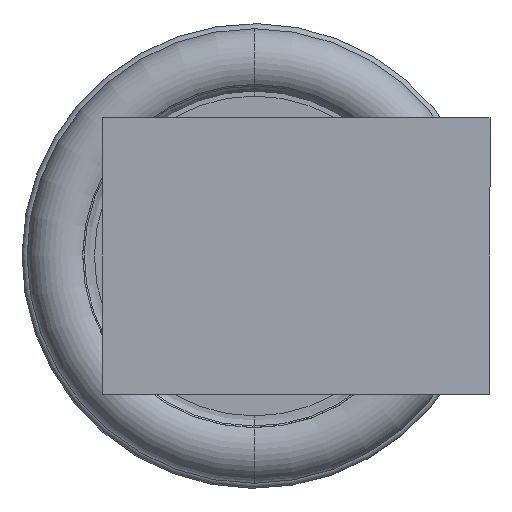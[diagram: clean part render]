
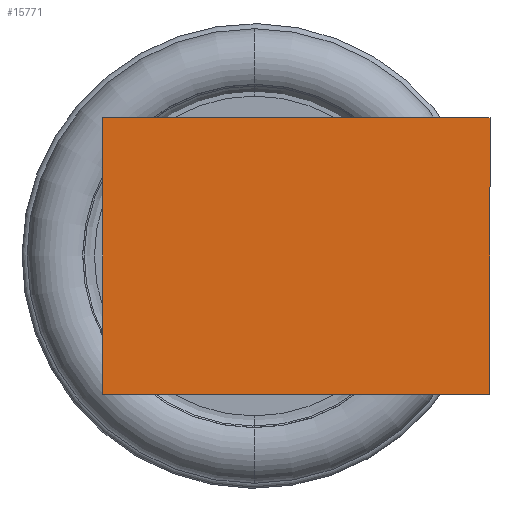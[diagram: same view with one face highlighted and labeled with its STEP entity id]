
A CAD part, left-side view. The second image highlights one B-rep face of the part: STEP entity #15771.
In plain terms, the highlighted planar face has unit normal (-1, 0, 0).
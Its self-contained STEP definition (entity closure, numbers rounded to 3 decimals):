
#1249 = ORIENTED_EDGE ( 'NONE', *, *, #2960, .T. ) ;
#2960 = EDGE_CURVE ( 'NONE', #8274, #21237, #16610, .T. ) ;
#3038 = VERTEX_POINT ( 'NONE', #4284 ) ;
#4174 = VECTOR ( 'NONE', #16533, 1000. ) ;
#4284 = CARTESIAN_POINT ( 'NONE',  ( -140., -6.999, 4.1 ) ) ;
#4806 = DIRECTION ( 'NONE',  ( 0., -1., 0. ) ) ;
#5700 = CARTESIAN_POINT ( 'NONE',  ( -140., 4.5, -15. ) ) ;
#6125 = DIRECTION ( 'NONE',  ( 0., 0., 1. ) ) ;
#6142 = PLANE ( 'NONE',  #19787 ) ;
#7135 = ORIENTED_EDGE ( 'NONE', *, *, #24054, .F. ) ;
#7278 = EDGE_CURVE ( 'NONE', #11095, #3038, #14667, .T. ) ;
#7748 = EDGE_CURVE ( 'NONE', #21237, #3038, #13960, .T. ) ;
#8274 = VERTEX_POINT ( 'NONE', #12844 ) ;
#8284 = VECTOR ( 'NONE', #13791, 1000. ) ;
#10787 = EDGE_LOOP ( 'NONE', ( #7135, #1249, #14383, #22571 ) ) ;
#11095 = VERTEX_POINT ( 'NONE', #20086 ) ;
#12844 = CARTESIAN_POINT ( 'NONE',  ( -140., 4.5, -4.1 ) ) ;
#13773 = CARTESIAN_POINT ( 'NONE',  ( -140., -6.999, -4.1 ) ) ;
#13791 = DIRECTION ( 'NONE',  ( 0., 0., 1. ) ) ;
#13960 = LINE ( 'NONE', #18067, #20345 ) ;
#14101 = CARTESIAN_POINT ( 'NONE',  ( -140., 0., 0. ) ) ;
#14383 = ORIENTED_EDGE ( 'NONE', *, *, #7748, .T. ) ;
#14667 = LINE ( 'NONE', #20498, #4174 ) ;
#15771 = ADVANCED_FACE ( 'NONE', ( #24596 ), #6142, .T. ) ;
#16314 = VECTOR ( 'NONE', #4806, 1000. ) ;
#16533 = DIRECTION ( 'NONE',  ( 0., -1., 0. ) ) ;
#16610 = LINE ( 'NONE', #22843, #16314 ) ;
#18067 = CARTESIAN_POINT ( 'NONE',  ( -140., -6.999, 0. ) ) ;
#19787 = AXIS2_PLACEMENT_3D ( 'NONE', #14101, #24205, #22326 ) ;
#20086 = CARTESIAN_POINT ( 'NONE',  ( -140., 4.5, 4.1 ) ) ;
#20345 = VECTOR ( 'NONE', #6125, 1000. ) ;
#20498 = CARTESIAN_POINT ( 'NONE',  ( -140., 0., 4.1 ) ) ;
#21237 = VERTEX_POINT ( 'NONE', #13773 ) ;
#22326 = DIRECTION ( 'NONE',  ( 0., -1., 0. ) ) ;
#22571 = ORIENTED_EDGE ( 'NONE', *, *, #7278, .F. ) ;
#22843 = CARTESIAN_POINT ( 'NONE',  ( -140., 0., -4.1 ) ) ;
#24054 = EDGE_CURVE ( 'NONE', #8274, #11095, #26162, .T. ) ;
#24205 = DIRECTION ( 'NONE',  ( -1., 0., 0. ) ) ;
#24596 = FACE_OUTER_BOUND ( 'NONE', #10787, .T. ) ;
#26162 = LINE ( 'NONE', #5700, #8284 ) ;
